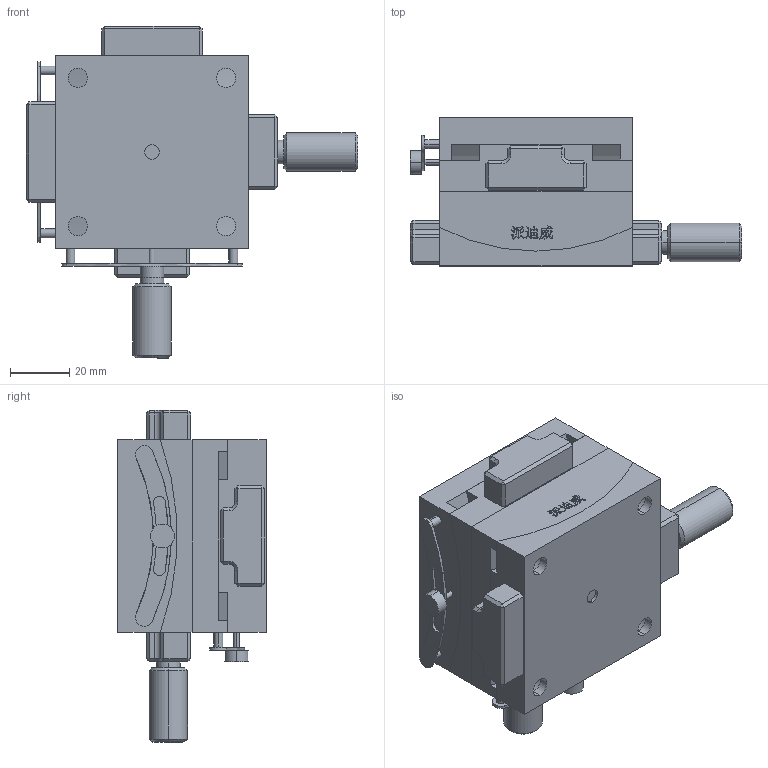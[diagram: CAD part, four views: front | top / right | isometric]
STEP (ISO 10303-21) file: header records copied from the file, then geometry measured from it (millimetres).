
FILE_DESCRIPTION (( 'STEP AP214' ), '1' );
FILE_NAME ('PT-SD306+PT-SD308.STEP', '2023-02-25T01:21:38', ( '' ), ( '' ), 'SwSTEP 2.0', 'SolidWorks 2017', '' );
FILE_SCHEMA (( 'AUTOMOTIVE_DESIGN' ));
Length unit declared in the file: millimetre
Products named in the file (2): PT-SD306+PT-SD308
Bounding box: 112 x 50 x 112 mm (x, y, z)
Volume: 215274.3 mm3; surface area: 60929.9 mm2
Topology: 4 solids, 4 shells, 729 faces, 1866 edges, 1181 vertices
Faces by surface type: plane 387, bspline 152, cylinder 140, cone 50
Entity records: 36569 total; most frequent: CARTESIAN_POINT 11776, ORIENTED_EDGE 3664, DIRECTION 2982, EDGE_CURVE 1832, VECTOR 1200, LINE 1200, VERTEX_POINT 1181, AXIS2_PLACEMENT_3D 891
